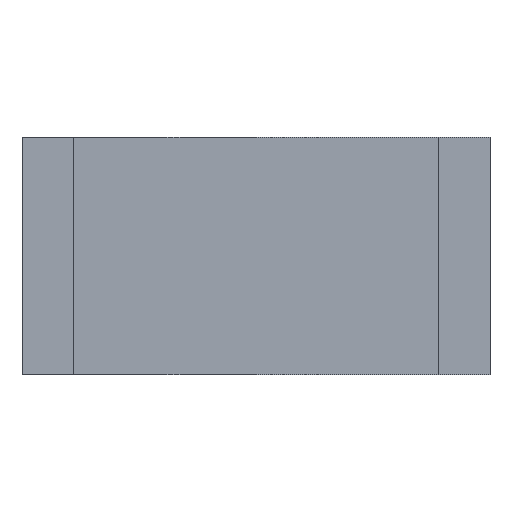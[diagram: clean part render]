
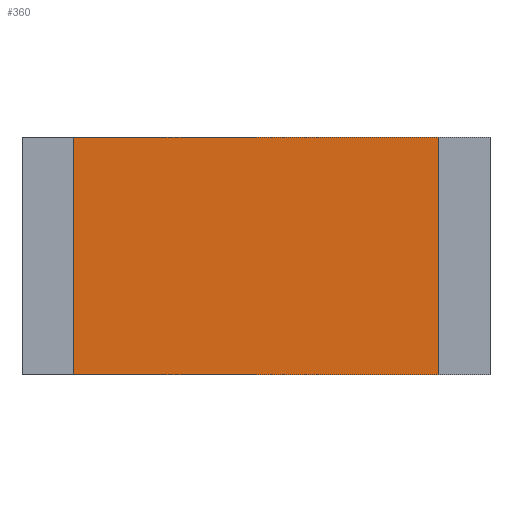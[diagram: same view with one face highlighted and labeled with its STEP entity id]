
A CAD part, top view. The second image highlights one B-rep face of the part: STEP entity #360.
In plain terms, the highlighted planar face has unit normal (0, 0, 1).
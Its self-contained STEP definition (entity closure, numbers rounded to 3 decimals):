
#360=ADVANCED_FACE('',(#759),#761,.T.);
#759=FACE_BOUND('',#760,.T.);
#760=EDGE_LOOP('',(#1046,#1047,#1048,#1049));
#761=PLANE('',#762);
#762=AXIS2_PLACEMENT_3D('',#763,#764,#765);
#763=CARTESIAN_POINT('',(0.,0.,0.6));
#764=DIRECTION('',(0.,0.,1.));
#765=DIRECTION('',(-1.,0.,0.));
#1046=ORIENTED_EDGE('',*,*,#1218,.T.);
#1047=ORIENTED_EDGE('',*,*,#1222,.T.);
#1048=ORIENTED_EDGE('',*,*,#1225,.T.);
#1049=ORIENTED_EDGE('',*,*,#1227,.T.);
#1218=EDGE_CURVE('',#1384,#1382,#1385,.T.);
#1222=EDGE_CURVE('',#1382,#1389,#1391,.T.);
#1225=EDGE_CURVE('',#1389,#1394,#1396,.T.);
#1227=EDGE_CURVE('',#1394,#1384,#1398,.T.);
#1382=VERTEX_POINT('',#1709);
#1384=VERTEX_POINT('',#1713);
#1385=LINE('',#1714,#1715);
#1389=VERTEX_POINT('',#1724);
#1391=LINE('',#1728,#1729);
#1394=VERTEX_POINT('',#1735);
#1396=LINE('',#1739,#1740);
#1398=LINE('',#1745,#1746);
#1709=CARTESIAN_POINT('',(-2.45,1.6,0.6));
#1713=CARTESIAN_POINT('',(2.45,1.6,0.6));
#1714=CARTESIAN_POINT('',(2.45,1.6,0.6));
#1715=VECTOR('',#1716,1.);
#1716=DIRECTION('',(-1.,0.,0.));
#1724=CARTESIAN_POINT('',(-2.45,-1.6,0.6));
#1728=CARTESIAN_POINT('',(-2.45,1.6,0.6));
#1729=VECTOR('',#1730,1.);
#1730=DIRECTION('',(0.,-1.,0.));
#1735=CARTESIAN_POINT('',(2.45,-1.6,0.6));
#1739=CARTESIAN_POINT('',(-2.45,-1.6,0.6));
#1740=VECTOR('',#1741,1.);
#1741=DIRECTION('',(1.,0.,0.));
#1745=CARTESIAN_POINT('',(2.45,-1.6,0.6));
#1746=VECTOR('',#1747,1.);
#1747=DIRECTION('',(0.,1.,0.));
